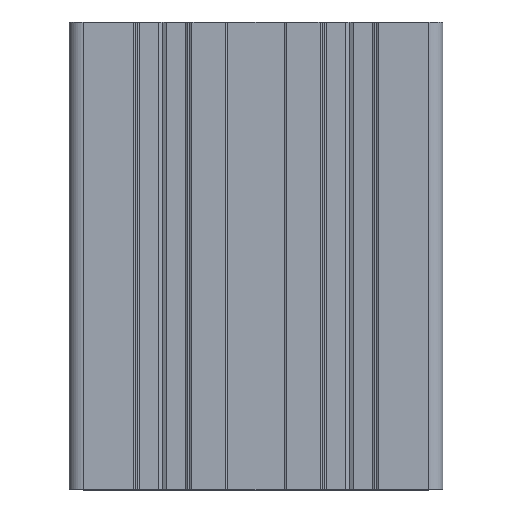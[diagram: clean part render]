
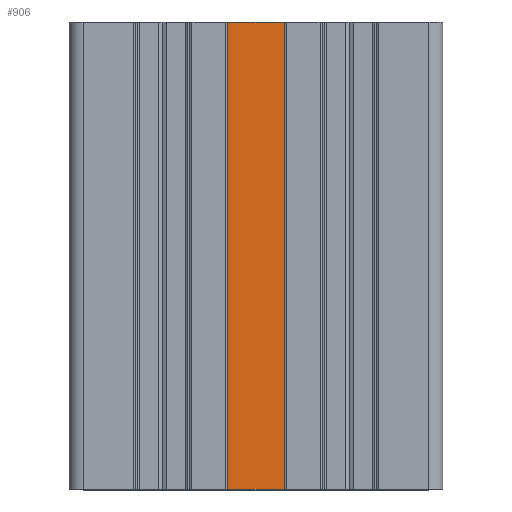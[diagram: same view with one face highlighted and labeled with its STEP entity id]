
A CAD part, top view. The second image highlights one B-rep face of the part: STEP entity #906.
In plain terms, the highlighted planar face has unit normal (0, 0, 1).
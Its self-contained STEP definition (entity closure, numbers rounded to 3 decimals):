
#906 = ADVANCED_FACE( '', ( #2228 ), #2229, .T. );
#2228 = FACE_OUTER_BOUND( '', #3985, .T. );
#2229 = PLANE( '', #3986 );
#3985 = EDGE_LOOP( '', ( #6501, #6502, #6503, #6504 ) );
#3986 = AXIS2_PLACEMENT_3D( '', #6505, #6506, #6507 );
#6501 = ORIENTED_EDGE( '', *, *, #11752, .F. );
#6502 = ORIENTED_EDGE( '', *, *, #11289, .F. );
#6503 = ORIENTED_EDGE( '', *, *, #11753, .T. );
#6504 = ORIENTED_EDGE( '', *, *, #11754, .T. );
#6505 = CARTESIAN_POINT( '', ( 6., 100., 39. ) );
#6506 = DIRECTION( '', ( 0., 0., 1. ) );
#6507 = DIRECTION( '', ( 0., -1., 0. ) );
#11289 = EDGE_CURVE( '', #13793, #13789, #13795, .T. );
#11752 = EDGE_CURVE( '', #13789, #14586, #14587, .T. );
#11753 = EDGE_CURVE( '', #13793, #14588, #14589, .T. );
#11754 = EDGE_CURVE( '', #14588, #14586, #14590, .T. );
#13789 = VERTEX_POINT( '', #17381 );
#13793 = VERTEX_POINT( '', #17387 );
#13795 = LINE( '', #17390, #17391 );
#14586 = VERTEX_POINT( '', #18448 );
#14587 = LINE( '', #18449, #18450 );
#14588 = VERTEX_POINT( '', #18451 );
#14589 = LINE( '', #18452, #18453 );
#14590 = LINE( '', #18454, #18455 );
#17381 = CARTESIAN_POINT( '', ( 6., 0., 39. ) );
#17387 = CARTESIAN_POINT( '', ( 6., 100., 39. ) );
#17390 = CARTESIAN_POINT( '', ( 6., 100., 39. ) );
#17391 = VECTOR( '', #21727, 1000. );
#18448 = CARTESIAN_POINT( '', ( -6., 0., 39. ) );
#18449 = CARTESIAN_POINT( '', ( 6., 0., 39. ) );
#18450 = VECTOR( '', #22282, 1000. );
#18451 = CARTESIAN_POINT( '', ( -6., 100., 39. ) );
#18452 = CARTESIAN_POINT( '', ( 6., 100., 39. ) );
#18453 = VECTOR( '', #22283, 1000. );
#18454 = CARTESIAN_POINT( '', ( -6., 100., 39. ) );
#18455 = VECTOR( '', #22284, 1000. );
#21727 = DIRECTION( '', ( 0., -1., 0. ) );
#22282 = DIRECTION( '', ( -1., 0., 0. ) );
#22283 = DIRECTION( '', ( -1., 0., 0. ) );
#22284 = DIRECTION( '', ( 0., -1., 0. ) );
